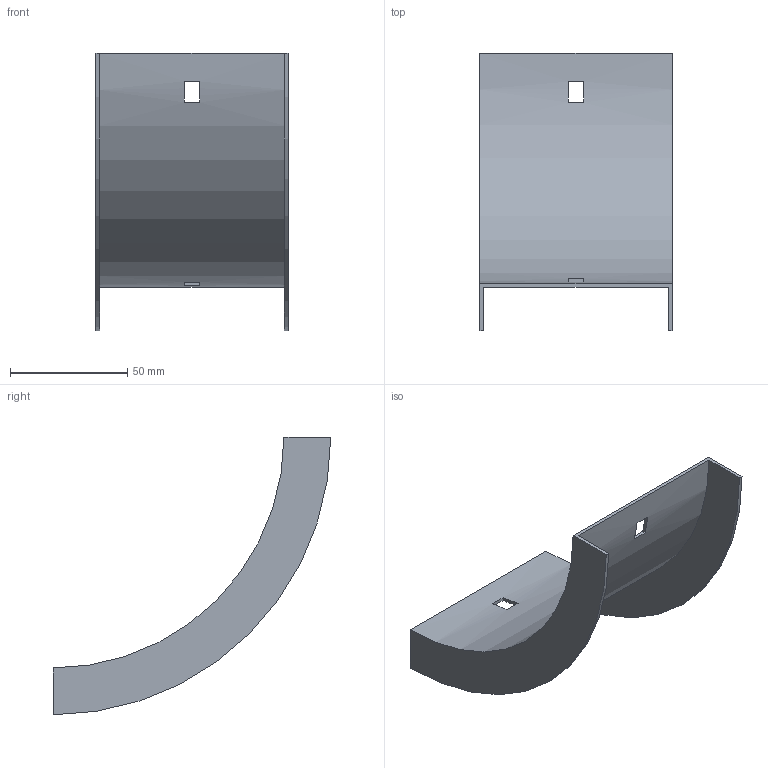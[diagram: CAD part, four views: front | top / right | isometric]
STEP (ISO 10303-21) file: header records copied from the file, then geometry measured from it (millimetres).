
FILE_DESCRIPTION (( 'STEP AP214' ), '1' );
FILE_NAME ('30N1R075.step', '2025-02-21T09:23:32', ( '' ), ( '' ), 'SwSTEP 2.0', 'SolidWorks 2023', '' );
FILE_SCHEMA (( 'AUTOMOTIVE_DESIGN' ));
Length unit declared in the file: millimetre
Products named in the file (1): 30N1R075
Bounding box: 82 x 118.5 x 118.5 mm (x, y, z)
Volume: 28522.2 mm3; surface area: 39035.8 mm2
Topology: 1 solids, 1 shells, 18 faces, 48 edges, 32 vertices
Faces by surface type: plane 14, cylinder 4
Entity records: 599 total; most frequent: DIRECTION 102, CARTESIAN_POINT 99, ORIENTED_EDGE 96, EDGE_CURVE 48, AXIS2_PLACEMENT_3D 35, VERTEX_POINT 32, VECTOR 32, LINE 32
